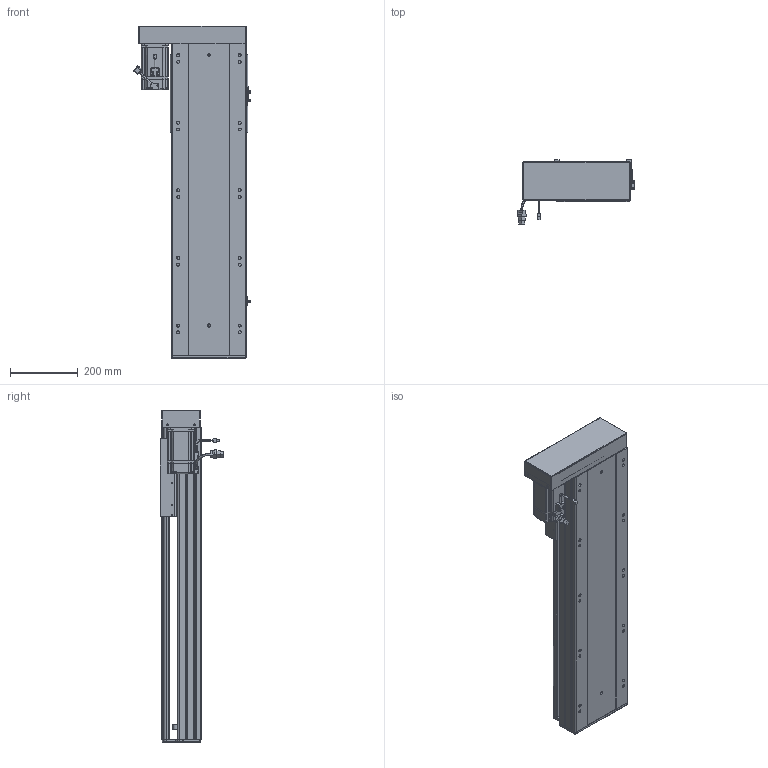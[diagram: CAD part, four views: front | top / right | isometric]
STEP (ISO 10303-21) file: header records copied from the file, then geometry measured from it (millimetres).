
FILE_DESCRIPTION (( 'STEP AP203' ), '1' );
FILE_NAME ('RY220-L2525-300-LK.SLDASM_600.step', '2022-07-04T01:46:36', ( '' ), ( '' ), 'SwSTEP 2.0', 'SolidWorks 2016', '' );
FILE_SCHEMA (( 'CONFIG_CONTROL_DESIGN' ));
Length unit declared in the file: millimetre
Products named in the file (12): 滅袉蝶18-15; RY220-L2525-300-LK.SLDASM_600; RY220綴裔啣; RY220-俋离672覜茼んえ; RY220-300-蛌殏奻裔啣_600; 滅袉蝶18-10; RY220蛌殏菁釱-300_600; 覜茼ん672; RY220酘衵殏萇儂欶; 怢湛750W_ECMA-CX0807ES; RY220左右折电机安装板; RY220半封闭25-32螺母铝滑块
Assembly tree (15 placements, depth 2):
  RY220-L2525-300-LK.SLDASM_600
    RY220蛌殏菁釱-300_600
    RY220-300-蛌殏奻裔啣_600
    怢湛750W_ECMA-CX0807ES
    滅袉蝶18-10  x2
    RY220-俋离672覜茼んえ
    覜茼ん672  x3
    RY220綴裔啣
    RY220半封闭25-32螺母铝滑块
    滅袉蝶18-15  x2
    RY220左右折电机安装板
    RY220酘衵殏萇儂欶
Bounding box: 347.44 x 189.27 x 982 mm (x, y, z)
Volume: 8974837 mm3; surface area: 2532667.9 mm2
Topology: 16 solids, 16 shells, 2055 faces, 5664 edges, 3601 vertices
Faces by surface type: cylinder 903, plane 896, cone 186, bspline 44, sphere 16, torus 10
Entity records: 67773 total; most frequent: CARTESIAN_POINT 19807, ORIENTED_EDGE 9984, DIRECTION 9292, EDGE_CURVE 4992, VERTEX_POINT 3257, AXIS2_PLACEMENT_3D 3233, VECTOR 2826, LINE 2826
